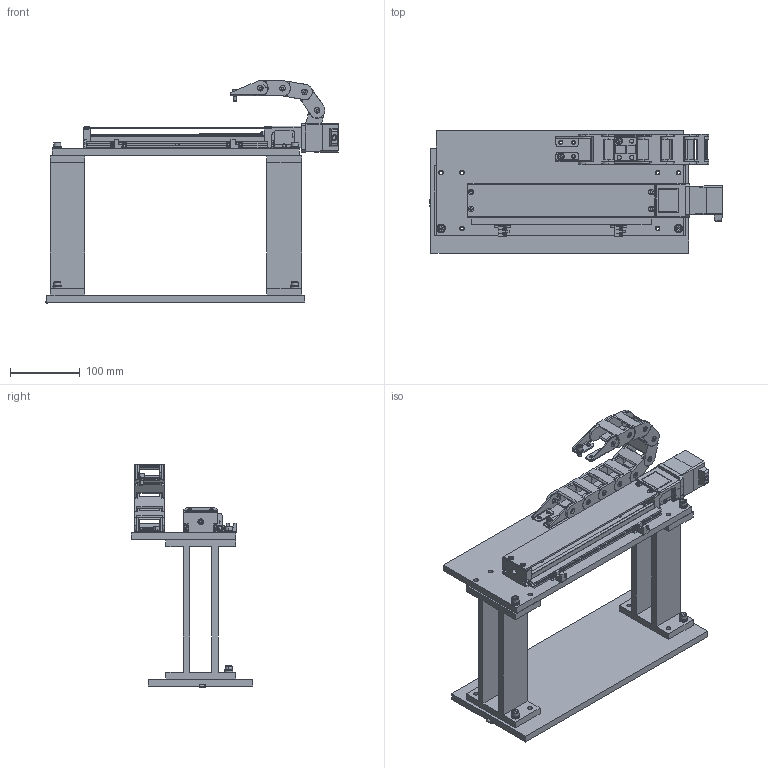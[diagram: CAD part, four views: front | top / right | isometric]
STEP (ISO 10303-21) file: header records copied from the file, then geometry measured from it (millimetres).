
FILE_DESCRIPTION (( 'STEP AP214' ), '1' );
FILE_NAME ('14_X-Y-Z_directions_movable_and_continuity_inspection_mechanism_Base.STEP', '2021-02-09T02:13:19', ( '' ), ( '' ), 'SwSTEP 2.0', 'SolidWorks 2017', '' );
FILE_SCHEMA (( 'AUTOMOTIVE_DESIGN' ));
Length unit declared in the file: millimetre
Products named in the file (45): 0405_Z_LXM2602C-T4-D4-3-2-L-250_11; 0405_Z_LXM2602C-T4-D4-3-2-L-250_5; 0405_Z_LXM2602C-T4-D4-3-2-L-250_12; 14_X-Y-Z_directions_movable_and_continuity_inspection_mechanism_Base; 0405_Z_LXM2602C-T4-D4-3-2-L-250_10; 0405_Z_LXM2602C-T4-D4-3-2-L-250_15; _0405_Assy; 0405_Z_MHPKS204-38-9-B_10; 0405_Z_MHPKS204-38-9-B_13; 0405_007_MHPKS204-38-9-B; 0405_Z_MHPKS204-38-9-B_4; 0405_202_Plate; 0405_013_CBST5-12; 0405_Z_CBST6-20_2; 0405_Z_LXM2602C-T4-D4-3-2-L-250_13; 0405_Z_MHPKS204-38-9-B_5; 0405_Z_MHPKS204-38-9-B_3; 0405_Z_MHPKS204-38-9-B_11; 0405_Z_CBST6-20_1; 0405_Z_MHPKS204-38-9-B_9; 0405_Z_LXM2602C-T4-D4-3-2-L-250_14; 0405_Z_MHPKS204-38-9-B_7; 0405_201_Base; 0405_002_LXM2602C-T4-D4-3-2-L-250; 0405_014_CBST6-20; 0405_Z_MHPKS204-38-9-B_12; 0405_Z_MHPKS204-38-9-B_2; 0405_Z_MHPKS204-38-9-B_6; 0405_Z_MHPKS204-38-9-B_8; _0405_SA01; 0405_Z_LXM2602C-T4-D4-3-2-L-250_4; 0405_Z_CBST6-20_3; 0405_Z_LXM2602C-T4-D4-3-2-L-250_9; 0405_Z_MHPKS204-38-9-B_1; 0405_Z_LXM2602C-T4-D4-3-2-L-250_6; 0405_Z_LXM2602C-T4-D4-3-2-L-250_8; 0405_Z_LXM2602C-T4-D4-3-2-L-250_3; 0405_302_CBM4-10; 0405_Z_LXM2602C-T4-D4-3-2-L-250_7; 0405_Z_MHPKS204-38-9-B_01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
Assembly tree (50 placements, depth 6):
  14_X-Y-Z_directions_movable_and_continuity_inspection_mechanism_Base
    _0405_Assy
      _0405_SA01
        0405_002_LXM2602C-T4-D4-3-2-L-250
          0405_Z_LXM2602C-T4-D4-3-2-L-250_1
          0405_Z_LXM2602C-T4-D4-3-2-L-250_2
          0405_Z_LXM2602C-T4-D4-3-2-L-250_3
          0405_Z_LXM2602C-T4-D4-3-2-L-250_4
          0405_Z_LXM2602C-T4-D4-3-2-L-250_5
          0405_Z_LXM2602C-T4-D4-3-2-L-250_6
          0405_Z_LXM2602C-T4-D4-3-2-L-250_7
          0405_Z_LXM2602C-T4-D4-3-2-L-250_8
          0405_Z_LXM2602C-T4-D4-3-2-L-250_9
          0405_Z_LXM2602C-T4-D4-3-2-L-250_10
          0405_Z_LXM2602C-T4-D4-3-2-L-250_11
          0405_Z_LXM2602C-T4-D4-3-2-L-250_12
          0405_Z_LXM2602C-T4-D4-3-2-L-250_13
          0405_Z_LXM2602C-T4-D4-3-2-L-250_14
          0405_Z_LXM2602C-T4-D4-3-2-L-250_15
        0405_008_YSBP100-B50-H200-F30-G80-M6  x2
        0405_010_MS4-10  x2
        0405_014_CBST6-20  x4
          0405_Z_CBST6-20_1
          0405_Z_CBST6-20_2
          0405_Z_CBST6-20_3
        0405_201_Base
        0405_202_Plate
        0405_302_CBM4-10
      _0405_SA04
        0405_007_MHPKS204-38-9-B
          0405_Z_MHPKS204-38-9-B_01
            0405_Z_MHPKS204-38-9-B_1
            0405_Z_MHPKS204-38-9-B_6
            0405_Z_MHPKS204-38-9-B_7
            0405_Z_MHPKS204-38-9-B_8
            0405_Z_MHPKS204-38-9-B_9
            0405_Z_MHPKS204-38-9-B_10
            0405_Z_MHPKS204-38-9-B_11
            0405_Z_MHPKS204-38-9-B_12
            0405_Z_MHPKS204-38-9-B_13
            0405_Z_MHPKS204-38-9-B_2
            0405_Z_MHPKS204-38-9-B_3
            0405_Z_MHPKS204-38-9-B_4
            0405_Z_MHPKS204-38-9-B_5
        0405_013_CBST5-12  x2
Bounding box: 420.5 x 175 x 320 mm (x, y, z)
Volume: 2051387.5 mm3; surface area: 603548.9 mm2
Topology: 49 solids, 49 shells, 2432 faces, 6262 edges, 4002 vertices
Faces by surface type: plane 1031, cylinder 993, cone 362, bspline 46
Entity records: 96988 total; most frequent: CARTESIAN_POINT 14758, DIRECTION 12163, ORIENTED_EDGE 11490, EDGE_CURVE 5745, AXIS2_PLACEMENT_3D 4567, VERTEX_POINT 3707, VECTOR 3029, LINE 3029
